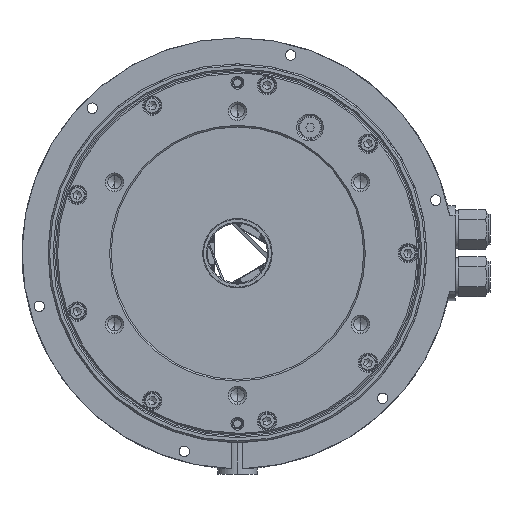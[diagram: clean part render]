
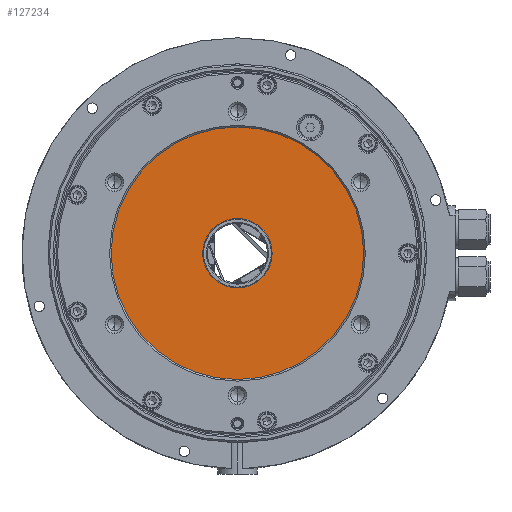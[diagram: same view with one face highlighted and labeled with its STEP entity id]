
A CAD part, left-side view. The second image highlights one B-rep face of the part: STEP entity #127234.
In plain terms, the highlighted planar face has unit normal (-1, 0, 0).
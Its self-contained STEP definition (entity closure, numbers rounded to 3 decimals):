
#2225 = DIRECTION ( 'NONE',  ( -1., 0., 0. ) ) ;
#3863 = VERTEX_POINT ( 'NONE', #35526 ) ;
#8529 = DIRECTION ( 'NONE',  ( 1., 0., 0. ) ) ;
#10305 = CARTESIAN_POINT ( 'NONE',  ( -7.5, 0., 0. ) ) ;
#13828 = DIRECTION ( 'NONE',  ( 0., 0., 1. ) ) ;
#15055 = AXIS2_PLACEMENT_3D ( 'NONE', #10305, #99527, #61426 ) ;
#21933 = CIRCLE ( 'NONE', #95225, 80. ) ;
#28209 = FACE_BOUND ( 'NONE', #121730, .T. ) ;
#32162 = VERTEX_POINT ( 'NONE', #78083 ) ;
#35517 = VERTEX_POINT ( 'NONE', #91243 ) ;
#35526 = CARTESIAN_POINT ( 'NONE',  ( -7.5, 0., -22. ) ) ;
#38025 = PLANE ( 'NONE',  #119765 ) ;
#38669 = CARTESIAN_POINT ( 'NONE',  ( -7.5, 22., 0. ) ) ;
#41137 = EDGE_CURVE ( 'NONE', #35517, #32162, #84220, .T. ) ;
#46870 = CARTESIAN_POINT ( 'NONE',  ( -7.5, 0., 0. ) ) ;
#56997 = CIRCLE ( 'NONE', #15055, 22. ) ;
#61426 = DIRECTION ( 'NONE',  ( 0., 0., 1. ) ) ;
#62359 = CARTESIAN_POINT ( 'NONE',  ( -7.5, 0., 0. ) ) ;
#64271 = DIRECTION ( 'NONE',  ( -1., 0., 0. ) ) ;
#66340 = ORIENTED_EDGE ( 'NONE', *, *, #91161, .F. ) ;
#67451 = AXIS2_PLACEMENT_3D ( 'NONE', #72402, #2225, #94024 ) ;
#72234 = CARTESIAN_POINT ( 'NONE',  ( -7.5, 0., 22. ) ) ;
#72378 = CIRCLE ( 'NONE', #112182, 22. ) ;
#72402 = CARTESIAN_POINT ( 'NONE',  ( -7.5, 0., 0. ) ) ;
#78064 = DIRECTION ( 'NONE',  ( 0., 0., -1. ) ) ;
#78083 = CARTESIAN_POINT ( 'NONE',  ( -7.5, 0., -80. ) ) ;
#78472 = EDGE_LOOP ( 'NONE', ( #104177, #88499 ) ) ;
#79556 = ORIENTED_EDGE ( 'NONE', *, *, #127661, .F. ) ;
#84220 = CIRCLE ( 'NONE', #67451, 80. ) ;
#86891 = DIRECTION ( 'NONE',  ( 0., 0., 1. ) ) ;
#88499 = ORIENTED_EDGE ( 'NONE', *, *, #96219, .T. ) ;
#91161 = EDGE_CURVE ( 'NONE', #3863, #125064, #72378, .T. ) ;
#91243 = CARTESIAN_POINT ( 'NONE',  ( -7.5, 0., 80. ) ) ;
#94024 = DIRECTION ( 'NONE',  ( 0., 0., 1. ) ) ;
#95225 = AXIS2_PLACEMENT_3D ( 'NONE', #46870, #128822, #86891 ) ;
#96219 = EDGE_CURVE ( 'NONE', #32162, #35517, #21933, .T. ) ;
#96462 = FACE_OUTER_BOUND ( 'NONE', #78472, .T. ) ;
#99527 = DIRECTION ( 'NONE',  ( -1., 0., 0. ) ) ;
#104177 = ORIENTED_EDGE ( 'NONE', *, *, #41137, .T. ) ;
#112182 = AXIS2_PLACEMENT_3D ( 'NONE', #62359, #64271, #13828 ) ;
#119765 = AXIS2_PLACEMENT_3D ( 'NONE', #38669, #8529, #78064 ) ;
#121730 = EDGE_LOOP ( 'NONE', ( #79556, #66340 ) ) ;
#125064 = VERTEX_POINT ( 'NONE', #72234 ) ;
#127234 = ADVANCED_FACE ( 'NONE', ( #28209, #96462 ), #38025, .F. ) ;
#127661 = EDGE_CURVE ( 'NONE', #125064, #3863, #56997, .T. ) ;
#128822 = DIRECTION ( 'NONE',  ( -1., 0., 0. ) ) ;
